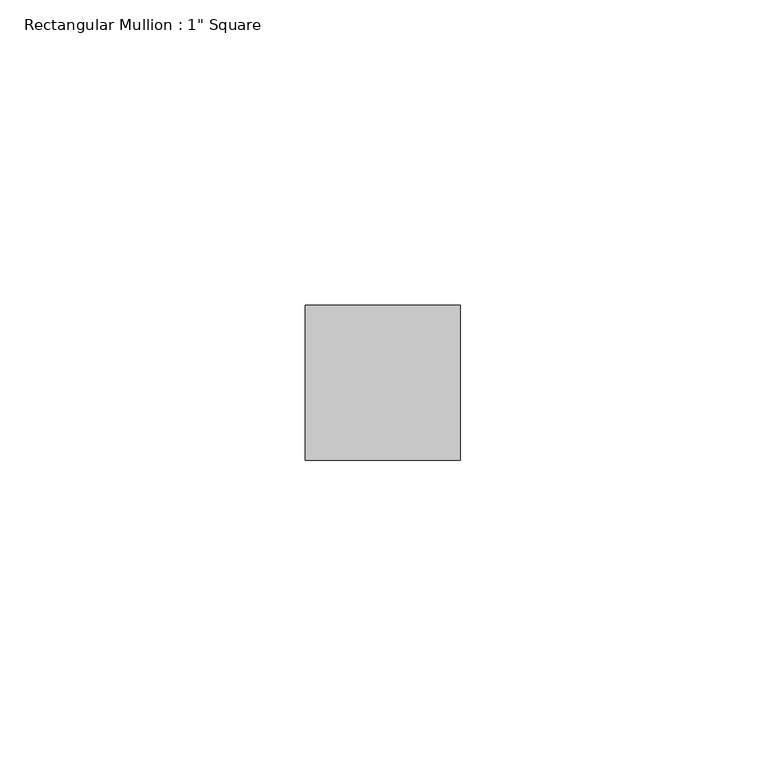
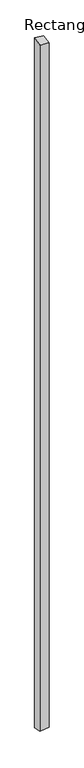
"""IFC4 building model written with IfcOpenShell, lengths in millimetres: member geometry."""

from ifc_helpers import new_model, si_unit, origin, place, context, project, spatial, faceted_brep, source, transform, mapped, element, save


def member_f8578e25(model_context):
    return source(origin(), model_context, "Body", "Brep", [
        faceted_brep([(-12.7, 12.7, 3.9383109), (12.7, 12.7, 1.8614515), (12.7, 12.7, -2037.3861723), (-12.7, 12.7, -2039.4630316), (-12.7, -12.7, -1.8614515), (-12.7, -12.7, -2033.6632693), (12.7, -12.7, -3.9383109), (12.7, -12.7, -2031.5864099)], [[[0, 1, 2, 3]], [[4, 0, 3, 5]], [[6, 4, 5, 7]], [[1, 6, 7, 2]], [[1, 0, 4, 6]], [[2, 7, 5, 3]]]),
    ])


if __name__ == "__main__":
    model = new_model("IFC4")
    model_context = context("Model", 3, world=origin())
    ifc_project = project(units=[si_unit("LENGTHUNIT", "METRE", prefix="MILLI")], contexts=[model_context])
    site = spatial("IfcSite", under=ifc_project)
    building = spatial("IfcBuilding", under=site)
    placement = place(None, origin())
    member_shape = member_f8578e25(model_context)
    element("IfcMember", 1, ObjectType="Rectangular Mullion : 1\" Square", at=placement, inside=building, context=model_context, shape_type="MappedRepresentation", body=[
        mapped(member_shape, transform((0.0, 0.0, 0.0), x_axis=(1.0, 0.0, 0.0), y_axis=(0.0, 1.0, 0.0), z_axis=(0.0, 0.0, 1.0))),
    ])
    save(model, "model.ifc")
